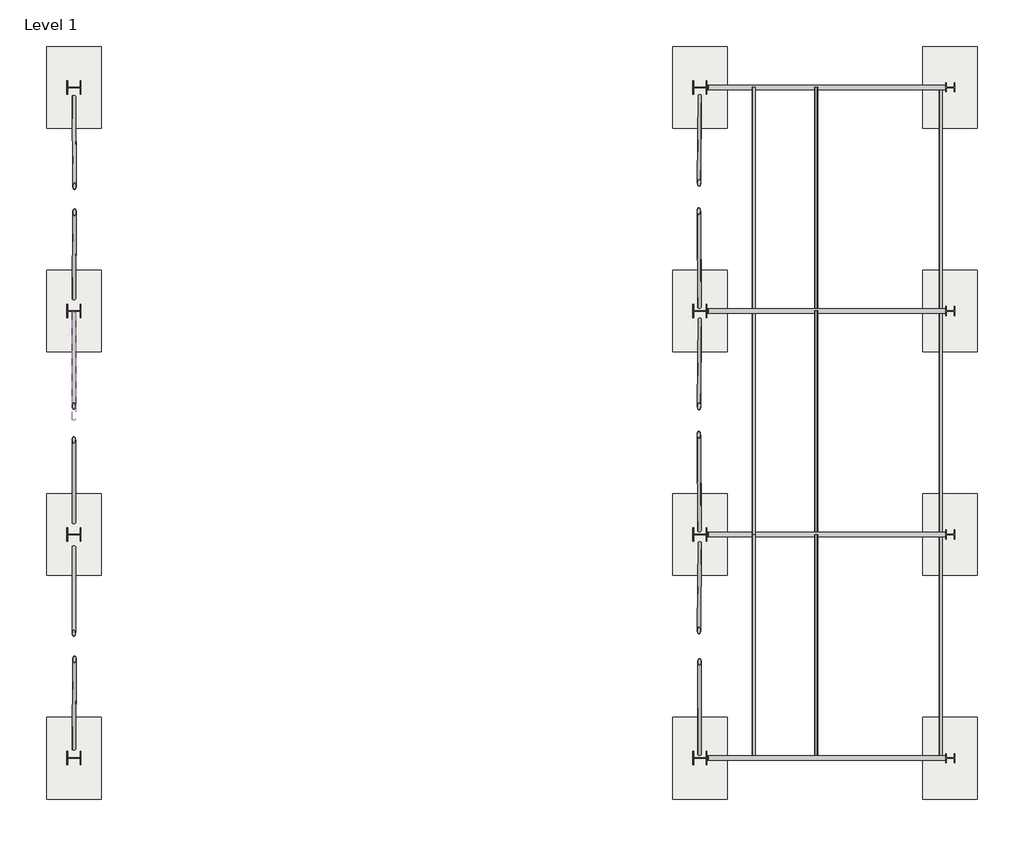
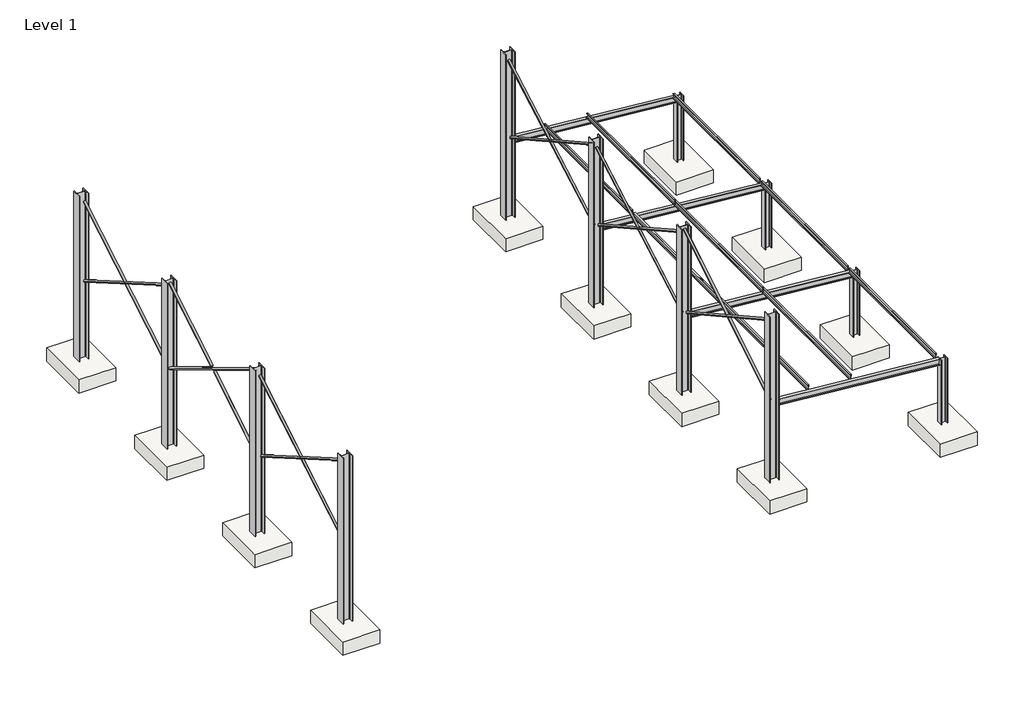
# One storey: 13 beams, 13 members, 12 columns, 12 slabs.
"""IFC4 building model written with IfcOpenShell, lengths in millimetres."""

from ifc_helpers import new_model, si_unit, origin, place, context, project, spatial, transform, mapped, element, save
from components import c_channel_c6x13_86cb4102, c_channel_c6x13_5e4b8ca6, c_channel_c6x13_7867c91a, c_channel_c6x13_f35f4d1e, s_american_standard_s8x23_70d94375, w_shapes_column_w8x35_9181672f, w_wide_flange_column_w12x72_1997fb71, hss_round_hss3x_250_0c23ba75, hss_round_hss3x_250_981c8c7b, hss_round_hss3x_250_f164ea78, hss_round_hss3x_250_433c4ffc, hss_round_hss3x_250_21325331, hss_round_hss3x_250_910272d4, hss_round_hss3x_250_41776640, hss_round_hss3x_250_9d4966fa, hss_round_hss3x_250_9e1ee1a0, hss_round_hss3x_250_20779bb7, slab_5ba74754

model = new_model("IFC4")

# Units and contexts
model_context = context("Model", 3, world=origin())
ifc_project = project(units=[si_unit("LENGTHUNIT", "METRE", prefix="MILLI")], contexts=[model_context])

# Site, building, storey
site = spatial("IfcSite", under=ifc_project)
building = spatial("IfcBuilding", under=site)
storey = spatial("IfcBuildingStorey", under=building, Name="Level 1", Elevation=0.0)

# Beams
placement = place(None, origin())
c_channel_c6x13_shape = c_channel_c6x13_86cb4102(model_context)
element("IfcBeam", 1, ObjectType="C-Channel : C6X13", at=placement, inside=storey, context=model_context, shape_type="MappedRepresentation", body=[
    mapped(c_channel_c6x13_shape, transform((-675.0355556, 1156.3470292, -406.3278005), x_axis=(0.0, 0.9999999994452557, 3.3308980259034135e-05), y_axis=(0.9960410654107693, 2.9609783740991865e-06, -0.08889429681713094), z_axis=(-0.08889429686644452, 3.317711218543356e-05, -0.9960410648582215))),
])
element("IfcBeam", 2, ObjectType="C-Channel : C6X13", at=placement, inside=storey, context=model_context, shape_type="MappedRepresentation", body=[
    mapped(c_channel_c6x13_shape, transform((-675.0355556, 11156.3470292, -406.3278005), x_axis=(0.0, 0.9999999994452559, 3.330898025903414e-05), y_axis=(0.9960410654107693, 2.960978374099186e-06, -0.08889429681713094), z_axis=(-0.08889429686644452, 3.3177112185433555e-05, -0.9960410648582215))),
])
c_channel_c6x13_2_shape = c_channel_c6x13_5e4b8ca6(model_context)
element("IfcBeam", 3, ObjectType="C-Channel : C6X13", at=placement, inside=storey, context=model_context, shape_type="MappedRepresentation", body=[
    mapped(c_channel_c6x13_2_shape, transform((-4858.398622, 1156.3470292, -32.8663584), x_axis=(0.0, 0.9999999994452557, 3.3308980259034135e-05), y_axis=(0.9960410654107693, 2.9609783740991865e-06, -0.08889429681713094), z_axis=(-0.08889429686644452, 3.317711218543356e-05, -0.9960410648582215))),
])
element("IfcBeam", 4, ObjectType="C-Channel : C6X13", at=placement, inside=storey, context=model_context, shape_type="MappedRepresentation", body=[
    mapped(c_channel_c6x13_2_shape, transform((-3463.9458346, 11156.3470292, -157.3710716), x_axis=(0.0, 0.9999999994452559, 3.330898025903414e-05), y_axis=(0.9960410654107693, 2.960978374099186e-06, -0.08889429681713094), z_axis=(-0.08889429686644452, 3.3177112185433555e-05, -0.9960410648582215))),
])
element("IfcBeam", 5, ObjectType="C-Channel : C6X13", at=placement, inside=storey, context=model_context, shape_type="MappedRepresentation", body=[
    mapped(c_channel_c6x13_2_shape, transform((-4858.398622, 11156.3470292, -32.8663584), x_axis=(0.0, 0.9999999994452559, 3.330898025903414e-05), y_axis=(0.9960410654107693, 2.9609783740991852e-06, -0.08889429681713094), z_axis=(-0.08889429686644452, 3.317711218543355e-05, -0.9960410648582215))),
])
element("IfcBeam", 6, ObjectType="C-Channel : C6X13", at=placement, inside=storey, context=model_context, shape_type="MappedRepresentation", body=[
    mapped(c_channel_c6x13_2_shape, transform((-3463.9458346, 1156.3470292, -157.3710716), x_axis=(0.0, 0.9999999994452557, 3.3308980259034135e-05), y_axis=(0.9960410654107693, 2.9609783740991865e-06, -0.08889429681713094), z_axis=(-0.08889429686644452, 3.317711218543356e-05, -0.9960410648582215))),
])
element("IfcBeam", 7, ObjectType="C-Channel : C6X13", at=placement, inside=storey, context=model_context, shape_type="MappedRepresentation", body=[
    mapped(c_channel_c6x13_2_shape, transform((-3463.9458346, 6156.3470292, -157.3710716), x_axis=(0.0, 0.9999999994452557, 3.3308980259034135e-05), y_axis=(0.9960410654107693, 2.9609783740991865e-06, -0.08889429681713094), z_axis=(-0.08889429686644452, 3.317711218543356e-05, -0.9960410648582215))),
])
c_channel_c6x13_3_shape = c_channel_c6x13_7867c91a(model_context)
element("IfcBeam", 8, ObjectType="C-Channel : C6X13", at=placement, inside=storey, context=model_context, shape_type="MappedRepresentation", body=[
    mapped(c_channel_c6x13_3_shape, transform((-675.0355556, 6156.3520854, -406.3278005), x_axis=(0.0, -0.9999999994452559, 3.330898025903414e-05), y_axis=(-0.9960410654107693, 2.960978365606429e-06, 0.08889429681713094), z_axis=(-0.08889429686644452, -3.3177112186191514e-05, -0.9960410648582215))),
])
c_channel_c6x13_4_shape = c_channel_c6x13_f35f4d1e(model_context)
element("IfcBeam", 9, ObjectType="C-Channel : C6X13", at=placement, inside=storey, context=model_context, shape_type="MappedRepresentation", body=[
    mapped(c_channel_c6x13_4_shape, transform((-4858.398622, 6156.3520854, -32.8663584), x_axis=(0.0, -0.9999999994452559, 3.330898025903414e-05), y_axis=(-0.9960410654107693, 2.960978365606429e-06, 0.08889429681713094), z_axis=(-0.08889429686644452, -3.3177112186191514e-05, -0.9960410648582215))),
])
s_american_standard_s8x23_shape = s_american_standard_s8x23_70d94375(model_context)
element("IfcBeam", 10, ObjectType="S-American Standard : S8x23", at=placement, inside=storey, context=model_context, shape_type="MappedRepresentation", body=[
    mapped(s_american_standard_s8x23_shape, transform((-3290.8447859, -1343.6504427, -351.1974309), x_axis=(0.9960377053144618, 0.0, -0.08893193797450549), y_axis=(0.0, 1.0, 0.0), z_axis=(0.0889319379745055, 0.0, 0.9960377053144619))),
])
element("IfcBeam", 11, ObjectType="S-American Standard : S8x23", at=placement, inside=storey, context=model_context, shape_type="MappedRepresentation", body=[
    mapped(s_american_standard_s8x23_shape, transform((-3290.8447859, 8656.3495573, -351.1974309), x_axis=(0.9960377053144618, 0.0, -0.08893193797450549), y_axis=(0.0, 1.0, 0.0), z_axis=(0.0889319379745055, 0.0, 0.9960377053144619))),
])
element("IfcBeam", 12, ObjectType="S-American Standard : S8x23", at=placement, inside=storey, context=model_context, shape_type="MappedRepresentation", body=[
    mapped(s_american_standard_s8x23_shape, transform((-3290.8447859, 13656.3495573, -351.1974309), x_axis=(0.9960377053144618, 0.0, -0.08893193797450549), y_axis=(0.0, 1.0, 0.0), z_axis=(0.0889319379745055, 0.0, 0.9960377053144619))),
])
element("IfcBeam", 13, ObjectType="S-American Standard : S8x23", at=placement, inside=storey, context=model_context, shape_type="MappedRepresentation", body=[
    mapped(s_american_standard_s8x23_shape, transform((-3290.8447859, 3656.3495573, -351.1974309), x_axis=(0.9960377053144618, 0.0, -0.08893193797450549), y_axis=(0.0, 1.0, 0.0), z_axis=(0.0889319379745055, 0.0, 0.9960377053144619))),
])

# Columns
w_shapes_column_w8x35_shape = w_shapes_column_w8x35_9181672f(model_context)
element("IfcColumn", 14, ObjectType="W Shapes-Column : W8X35", at=placement, inside=storey, context=model_context, shape_type="MappedRepresentation", body=[
    mapped(w_shapes_column_w8x35_shape, transform((-481.809301, -1343.6504427, 0.0), x_axis=(0.0, 1.0, 0.0), y_axis=(-1.0, 0.0, 0.0), z_axis=(0.0, 0.0, 1.0))),
])
element("IfcColumn", 15, ObjectType="W Shapes-Column : W8X35", at=placement, inside=storey, context=model_context, shape_type="MappedRepresentation", body=[
    mapped(w_shapes_column_w8x35_shape, transform((-481.809301, 3656.3495573, 0.0), x_axis=(0.0, 1.0, 0.0), y_axis=(-1.0, 0.0, 0.0), z_axis=(0.0, 0.0, 1.0))),
])
element("IfcColumn", 16, ObjectType="W Shapes-Column : W8X35", at=placement, inside=storey, context=model_context, shape_type="MappedRepresentation", body=[
    mapped(w_shapes_column_w8x35_shape, transform((-481.809301, 8656.3495573, 0.0), x_axis=(0.0, 1.0, 0.0), y_axis=(-1.0, 0.0, 0.0), z_axis=(0.0, 0.0, 1.0))),
])
element("IfcColumn", 17, ObjectType="W Shapes-Column : W8X35", at=placement, inside=storey, context=model_context, shape_type="MappedRepresentation", body=[
    mapped(w_shapes_column_w8x35_shape, transform((-481.809301, 13656.3495573, 0.0), x_axis=(0.0, 1.0, 0.0), y_axis=(-1.0, 0.0, 0.0), z_axis=(0.0, 0.0, 1.0))),
])
w_wide_flange_column_w12x72_shape = w_wide_flange_column_w12x72_1997fb71(model_context)
element("IfcColumn", 18, ObjectType="W-Wide Flange-Column : W12X72", at=placement, inside=storey, context=model_context, shape_type="MappedRepresentation", body=[
    mapped(w_wide_flange_column_w12x72_shape, transform((-20081.809301, -1343.6504427, 0.0), x_axis=(0.0, 1.0, 0.0), y_axis=(-1.0, 0.0, 0.0), z_axis=(0.0, 0.0, 1.0))),
])
element("IfcColumn", 19, ObjectType="W-Wide Flange-Column : W12X72", at=placement, inside=storey, context=model_context, shape_type="MappedRepresentation", body=[
    mapped(w_wide_flange_column_w12x72_shape, transform((-20081.809301, 3656.3495573, 0.0), x_axis=(0.0, 1.0, 0.0), y_axis=(-1.0, 0.0, 0.0), z_axis=(0.0, 0.0, 1.0))),
])
element("IfcColumn", 20, ObjectType="W-Wide Flange-Column : W12X72", at=placement, inside=storey, context=model_context, shape_type="MappedRepresentation", body=[
    mapped(w_wide_flange_column_w12x72_shape, transform((-20081.809301, 8656.3495573, 0.0), x_axis=(0.0, 1.0, 0.0), y_axis=(-1.0, 0.0, 0.0), z_axis=(0.0, 0.0, 1.0))),
])
element("IfcColumn", 21, ObjectType="W-Wide Flange-Column : W12X72", at=placement, inside=storey, context=model_context, shape_type="MappedRepresentation", body=[
    mapped(w_wide_flange_column_w12x72_shape, transform((-20081.809301, 13656.3495573, 0.0), x_axis=(0.0, 1.0, 0.0), y_axis=(-1.0, 0.0, 0.0), z_axis=(0.0, 0.0, 1.0))),
])
element("IfcColumn", 22, ObjectType="W-Wide Flange-Column : W12X72", at=placement, inside=storey, context=model_context, shape_type="MappedRepresentation", body=[
    mapped(w_wide_flange_column_w12x72_shape, transform((-6081.809301, -1343.6504427, 0.0), x_axis=(0.0, 1.0, 0.0), y_axis=(-1.0, 0.0, 0.0), z_axis=(0.0, 0.0, 1.0))),
])
element("IfcColumn", 23, ObjectType="W-Wide Flange-Column : W12X72", at=placement, inside=storey, context=model_context, shape_type="MappedRepresentation", body=[
    mapped(w_wide_flange_column_w12x72_shape, transform((-6081.809301, 3656.3495573, 0.0), x_axis=(0.0, 1.0, 0.0), y_axis=(-1.0, 0.0, 0.0), z_axis=(0.0, 0.0, 1.0))),
])
element("IfcColumn", 24, ObjectType="W-Wide Flange-Column : W12X72", at=placement, inside=storey, context=model_context, shape_type="MappedRepresentation", body=[
    mapped(w_wide_flange_column_w12x72_shape, transform((-6081.809301, 8656.3495573, 0.0), x_axis=(0.0, 1.0, 0.0), y_axis=(-1.0, 0.0, 0.0), z_axis=(0.0, 0.0, 1.0))),
])
element("IfcColumn", 25, ObjectType="W-Wide Flange-Column : W12X72", at=placement, inside=storey, context=model_context, shape_type="MappedRepresentation", body=[
    mapped(w_wide_flange_column_w12x72_shape, transform((-6081.809301, 13656.3495573, 0.0), x_axis=(0.0, 1.0, 0.0), y_axis=(-1.0, 0.0, 0.0), z_axis=(0.0, 0.0, 1.0))),
])

# Members
hss_round_hss3x_250_shape = hss_round_hss3x_250_0c23ba75(model_context)
element("IfcMember", 26, ObjectType="HSS Round : HSS3X.250", at=placement, inside=storey, context=model_context, shape_type="MappedRepresentation", body=[
    mapped(hss_round_hss3x_250_shape, transform((-20063.1292391, 11156.3495573, 1368.4996906), x_axis=(0.0064693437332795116, -0.8658086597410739, 0.5003334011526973), y_axis=(0.9999720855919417, 0.007471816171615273, 0.0), z_axis=(-0.003738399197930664, 0.5003194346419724, 0.8658328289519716))),
])
element("IfcMember", 27, ObjectType="HSS Round : HSS3X.250", at=placement, inside=storey, context=model_context, shape_type="MappedRepresentation", body=[
    mapped(hss_round_hss3x_250_shape, transform((-20063.1292391, 1156.3495573, 1368.4996906), x_axis=(0.006469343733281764, 0.8658086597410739, 0.5003334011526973), y_axis=(-0.9999720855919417, 0.0074718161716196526, 0.0), z_axis=(-0.0037383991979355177, -0.5003194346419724, 0.8658328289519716))),
])
hss_round_hss3x_250_2_shape = hss_round_hss3x_250_981c8c7b(model_context)
element("IfcMember", 28, ObjectType="HSS Round : HSS3X.250", at=placement, inside=storey, context=model_context, shape_type="MappedRepresentation", body=[
    mapped(hss_round_hss3x_250_2_shape, transform((-20081.809301, 1156.3495573, 1373.0338688), x_axis=(0.0, -0.8651462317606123, 0.5015196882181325), y_axis=(1.0, 0.0, 0.0), z_axis=(0.0, 0.5015196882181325, 0.8651462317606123))),
])
hss_round_hss3x_250_3_shape = hss_round_hss3x_250_f164ea78(model_context)
element("IfcMember", 29, ObjectType="HSS Round : HSS3X.250", at=placement, inside=storey, context=model_context, shape_type="MappedRepresentation", body=[
    mapped(hss_round_hss3x_250_3_shape, transform((-20081.809301, 6156.3495573, 1423.8), x_axis=(0.0, -0.8574929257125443, 0.5144957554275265), y_axis=(1.0, 0.0, 0.0), z_axis=(0.0, 0.5144957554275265, 0.8574929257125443))),
])
hss_round_hss3x_250_4_shape = hss_round_hss3x_250_433c4ffc(model_context)
element("IfcMember", 30, ObjectType="HSS Round : HSS3X.250", at=placement, inside=storey, context=model_context, shape_type="MappedRepresentation", body=[
    mapped(hss_round_hss3x_250_4_shape, transform((-20081.809301, 4902.6221214, 676.0364616), x_axis=(0.0, 0.8561343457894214, 0.5167533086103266), y_axis=(-1.0, 0.0, 0.0), z_axis=(0.0, -0.5167533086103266, 0.8561343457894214))),
])
hss_round_hss3x_250_5_shape = hss_round_hss3x_250_21325331(model_context)
element("IfcMember", 31, ObjectType="HSS Round : HSS3X.250", at=placement, inside=storey, context=model_context, shape_type="MappedRepresentation", body=[
    mapped(hss_round_hss3x_250_5_shape, transform((-20063.1292391, 11156.3495573, 1368.4996906), x_axis=(0.006469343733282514, 0.8658086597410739, 0.5003334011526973), y_axis=(-0.9999720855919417, 0.007471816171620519, 0.0), z_axis=(-0.0037383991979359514, -0.5003194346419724, 0.8658328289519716))),
])
hss_round_hss3x_250_6_shape = hss_round_hss3x_250_910272d4(model_context)
element("IfcMember", 32, ObjectType="HSS Round : HSS3X.250", at=placement, inside=storey, context=model_context, shape_type="MappedRepresentation", body=[
    mapped(hss_round_hss3x_250_6_shape, transform((-6100.4893629, 6156.3495573, 1406.5996906), x_axis=(0.006511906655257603, 0.8715049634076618, -0.4903434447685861), y_axis=(-0.9999720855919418, 0.0074718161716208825, 0.0), z_axis=(0.003663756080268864, 0.49032975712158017, 0.8715292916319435))),
])
element("IfcMember", 33, ObjectType="HSS Round : HSS3X.250", at=placement, inside=storey, context=model_context, shape_type="MappedRepresentation", body=[
    mapped(hss_round_hss3x_250_6_shape, transform((-6100.4893629, 11156.3495573, 1406.5996906), x_axis=(0.006511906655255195, 0.8715049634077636, -0.4903434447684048), y_axis=(-0.9999720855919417, 0.007471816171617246, 0.0), z_axis=(0.0036637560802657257, 0.4903297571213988, 0.8715292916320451))),
])
hss_round_hss3x_250_7_shape = hss_round_hss3x_250_41776640(model_context)
element("IfcMember", 34, ObjectType="HSS Round : HSS3X.250", at=placement, inside=storey, context=model_context, shape_type="MappedRepresentation", body=[
    mapped(hss_round_hss3x_250_7_shape, transform((-6102.1083016, 1156.3495573, 1398.5049972), x_axis=(0.007086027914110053, 0.8727065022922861, -0.48819376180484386), y_axis=(-0.9999670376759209, 0.008119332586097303, 0.0), z_axis=(0.003963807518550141, 0.48817766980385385, 0.8727352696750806))),
])
hss_round_hss3x_250_8_shape = hss_round_hss3x_250_9d4966fa(model_context)
element("IfcMember", 35, ObjectType="HSS Round : HSS3X.250", at=placement, inside=storey, context=model_context, shape_type="MappedRepresentation", body=[
    mapped(hss_round_hss3x_250_8_shape, transform((-6086.3337406, 1156.3495573, 1411.3012846), x_axis=(0.0015438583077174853, 0.8555989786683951, 0.5176369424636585), y_axis=(-0.9999983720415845, 0.0018044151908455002, 0.0), z_axis=(-0.0009340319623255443, -0.5176360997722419, 0.8556003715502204))),
])
hss_round_hss3x_250_9_shape = hss_round_hss3x_250_9e1ee1a0(model_context)
element("IfcMember", 36, ObjectType="HSS Round : HSS3X.250", at=placement, inside=storey, context=model_context, shape_type="MappedRepresentation", body=[
    mapped(hss_round_hss3x_250_9_shape, transform((-6105.0071053, 6156.3495573, 1356.0009752), x_axis=(-0.0048941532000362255, 0.8639392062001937, 0.5035723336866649), y_axis=(-0.9999839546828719, -0.005664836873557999, 0.0), z_axis=(0.002852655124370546, -0.5035642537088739, 0.8639530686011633))),
])
element("IfcMember", 37, ObjectType="HSS Round : HSS3X.250", at=placement, inside=storey, context=model_context, shape_type="MappedRepresentation", body=[
    mapped(hss_round_hss3x_250_9_shape, transform((-6105.0071053, 11156.3495573, 1356.0009752), x_axis=(-0.004894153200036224, 0.8639392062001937, 0.5035723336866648), y_axis=(-0.9999839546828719, -0.005664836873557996, 0.0), z_axis=(0.002852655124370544, -0.5035642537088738, 0.8639530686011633))),
])
hss_round_hss3x_250_10_shape = hss_round_hss3x_250_20779bb7(model_context)
element("IfcMember", 38, ObjectType="HSS Round : HSS3X.250", at=placement, inside=storey, context=model_context, shape_type="MappedRepresentation", body=[
    mapped(hss_round_hss3x_250_10_shape, transform((-20081.809301, 7402.6221214, 2176.0364616), x_axis=(0.0, 0.858841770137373, 0.5122409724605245), y_axis=(-1.0, 0.0, 0.0), z_axis=(0.0, -0.5122409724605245, 0.858841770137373))),
])

# Slabs
slab_shape = slab_5ba74754(model_context)
element("IfcSlab", 39, ObjectType="Footing-Rectangular : 72\" x 48\" x 18\"", at=placement, inside=storey, context=model_context, shape_type="MappedRepresentation", body=[
    mapped(slab_shape, transform((-20081.809301, -1343.6504427, -2743.2), x_axis=(1.0, 0.0, 0.0), y_axis=(0.0, 1.0, 0.0), z_axis=(0.0, 0.0, 1.0))),
])
element("IfcSlab", 40, ObjectType="Footing-Rectangular : 72\" x 48\" x 18\"", at=placement, inside=storey, context=model_context, shape_type="MappedRepresentation", body=[
    mapped(slab_shape, transform((-20081.809301, 3656.3495573, -2743.2), x_axis=(1.0, 0.0, 0.0), y_axis=(0.0, 1.0, 0.0), z_axis=(0.0, 0.0, 1.0))),
])
element("IfcSlab", 41, ObjectType="Footing-Rectangular : 72\" x 48\" x 18\"", at=placement, inside=storey, context=model_context, shape_type="MappedRepresentation", body=[
    mapped(slab_shape, transform((-20081.809301, 8656.3495573, -2743.2), x_axis=(1.0, 0.0, 0.0), y_axis=(0.0, 1.0, 0.0), z_axis=(0.0, 0.0, 1.0))),
])
element("IfcSlab", 42, ObjectType="Footing-Rectangular : 72\" x 48\" x 18\"", at=placement, inside=storey, context=model_context, shape_type="MappedRepresentation", body=[
    mapped(slab_shape, transform((-20081.809301, 13656.3495573, -2743.2), x_axis=(1.0, 0.0, 0.0), y_axis=(0.0, 1.0, 0.0), z_axis=(0.0, 0.0, 1.0))),
])
element("IfcSlab", 43, ObjectType="Footing-Rectangular : 72\" x 48\" x 18\"", at=placement, inside=storey, context=model_context, shape_type="MappedRepresentation", body=[
    mapped(slab_shape, transform((-6081.809301, 13656.3495573, -2743.2), x_axis=(1.0, 0.0, 0.0), y_axis=(0.0, 1.0, 0.0), z_axis=(0.0, 0.0, 1.0))),
])
element("IfcSlab", 44, ObjectType="Footing-Rectangular : 72\" x 48\" x 18\"", at=placement, inside=storey, context=model_context, shape_type="MappedRepresentation", body=[
    mapped(slab_shape, transform((-6081.809301, 8656.3495573, -2743.2), x_axis=(1.0, 0.0, 0.0), y_axis=(0.0, 1.0, 0.0), z_axis=(0.0, 0.0, 1.0))),
])
element("IfcSlab", 45, ObjectType="Footing-Rectangular : 72\" x 48\" x 18\"", at=placement, inside=storey, context=model_context, shape_type="MappedRepresentation", body=[
    mapped(slab_shape, transform((-6081.809301, 3656.3495573, -2743.2), x_axis=(1.0, 0.0, 0.0), y_axis=(0.0, 1.0, 0.0), z_axis=(0.0, 0.0, 1.0))),
])
element("IfcSlab", 46, ObjectType="Footing-Rectangular : 72\" x 48\" x 18\"", at=placement, inside=storey, context=model_context, shape_type="MappedRepresentation", body=[
    mapped(slab_shape, transform((-6081.809301, -1343.6504427, -2743.2), x_axis=(1.0, 0.0, 0.0), y_axis=(0.0, 1.0, 0.0), z_axis=(0.0, 0.0, 1.0))),
])
element("IfcSlab", 47, ObjectType="Footing-Rectangular : 72\" x 48\" x 18\"", at=placement, inside=storey, context=model_context, shape_type="MappedRepresentation", body=[
    mapped(slab_shape, transform((-481.809301, 13656.3495573, -2743.2), x_axis=(1.0, 0.0, 0.0), y_axis=(0.0, 1.0, 0.0), z_axis=(0.0, 0.0, 1.0))),
])
element("IfcSlab", 48, ObjectType="Footing-Rectangular : 72\" x 48\" x 18\"", at=placement, inside=storey, context=model_context, shape_type="MappedRepresentation", body=[
    mapped(slab_shape, transform((-481.809301, 8656.3495573, -2743.2), x_axis=(1.0, 0.0, 0.0), y_axis=(0.0, 1.0, 0.0), z_axis=(0.0, 0.0, 1.0))),
])
element("IfcSlab", 49, ObjectType="Footing-Rectangular : 72\" x 48\" x 18\"", at=placement, inside=storey, context=model_context, shape_type="MappedRepresentation", body=[
    mapped(slab_shape, transform((-481.809301, 3656.3495573, -2743.2), x_axis=(1.0, 0.0, 0.0), y_axis=(0.0, 1.0, 0.0), z_axis=(0.0, 0.0, 1.0))),
])
element("IfcSlab", 50, ObjectType="Footing-Rectangular : 72\" x 48\" x 18\"", at=placement, inside=storey, context=model_context, shape_type="MappedRepresentation", body=[
    mapped(slab_shape, transform((-481.809301, -1343.6504427, -2743.2), x_axis=(1.0, 0.0, 0.0), y_axis=(0.0, 1.0, 0.0), z_axis=(0.0, 0.0, 1.0))),
])

save(model, "model.ifc")
